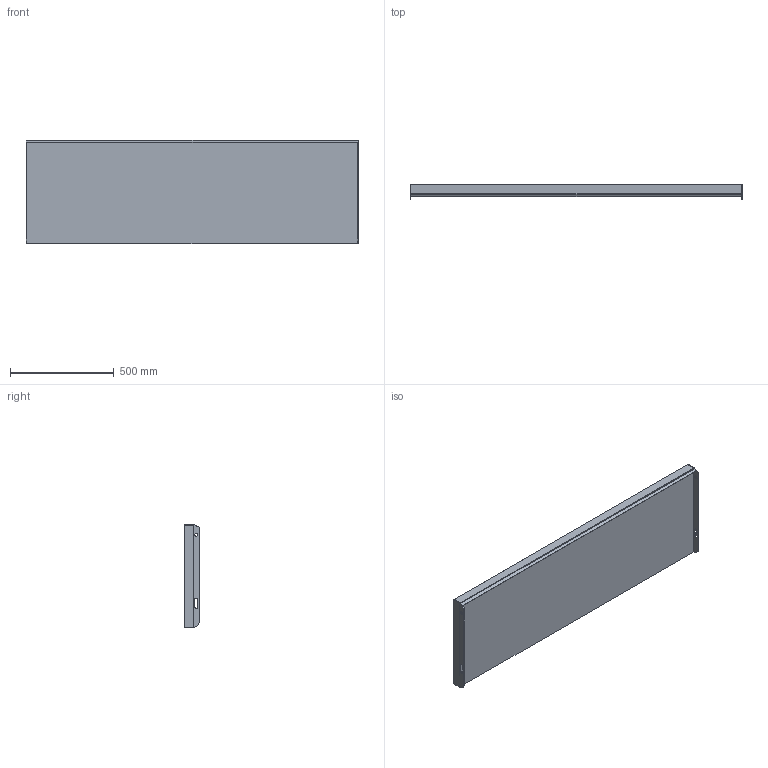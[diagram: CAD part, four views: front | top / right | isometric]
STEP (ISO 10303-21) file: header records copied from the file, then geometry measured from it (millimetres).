
FILE_DESCRIPTION (( 'STEP AP203' ), '1' );
FILE_NAME ('148816051, Plan TH6, 1600x500, vfz.STEP', '2020-10-21T13:24:32', ( '' ), ( '' ), 'SwSTEP 2.0', 'SolidWorks 2019', '' );
FILE_SCHEMA (( 'CONFIG_CONTROL_DESIGN' ));
Length unit declared in the file: millimetre
Products named in the file (4): SW0000041812; SW0000041758; SW0000041378; 148816051, Plan TH6, 1600x500, vfz
Assembly tree (4 placements, depth 2):
  148816051, Plan TH6, 1600x500, vfz
    SW0000041812
    SW0000041378  x2
    SW0000041758
Bounding box: 1600 x 70 x 497 mm (x, y, z)
Volume: 31986220.4 mm3; surface area: 2085456.2 mm2
Topology: 4 solids, 4 shells, 59 faces, 142 edges, 92 vertices
Faces by surface type: plane 45, cylinder 14
Entity records: 1693 total; most frequent: DIRECTION 221, CARTESIAN_POINT 220, ORIENTED_EDGE 206, EDGE_CURVE 103, VECTOR 87, LINE 87, AXIS2_PLACEMENT_3D 67, VERTEX_POINT 66
